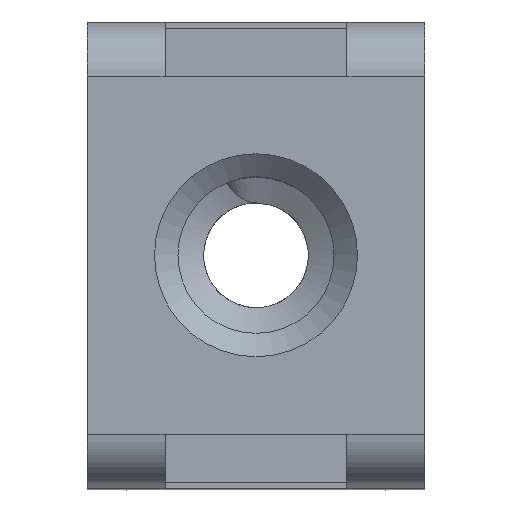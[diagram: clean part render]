
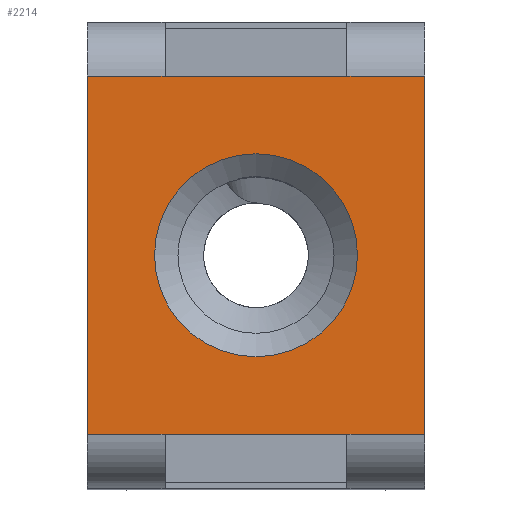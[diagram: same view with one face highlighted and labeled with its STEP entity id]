
A CAD part, top view. The second image highlights one B-rep face of the part: STEP entity #2214.
In plain terms, the highlighted planar face has unit normal (0, 0, 1).
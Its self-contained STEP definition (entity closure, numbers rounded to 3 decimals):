
#1822 = VERTEX_POINT('',#1823);
#1823 = CARTESIAN_POINT('',(3.251,3.453,11.989));
#1837 = VERTEX_POINT('',#1838);
#1838 = CARTESIAN_POINT('',(1.753,3.453,11.989));
#1850 = EDGE_CURVE('',#1822,#1837,#1851,.T.);
#1851 = B_SPLINE_CURVE_WITH_KNOTS('',1,(#1852,#1853),.UNSPECIFIED.,.F.,
  .F.,(2,2),(0.,1.),.PIECEWISE_BEZIER_KNOTS.);
#1852 = CARTESIAN_POINT('',(3.251,3.453,11.989));
#1853 = CARTESIAN_POINT('',(1.753,3.453,11.989));
#1922 = VERTEX_POINT('',#1923);
#1923 = CARTESIAN_POINT('',(-1.753,3.453,11.989));
#1937 = VERTEX_POINT('',#1938);
#1938 = CARTESIAN_POINT('',(-3.251,3.453,11.989));
#1950 = EDGE_CURVE('',#1922,#1937,#1951,.T.);
#1951 = B_SPLINE_CURVE_WITH_KNOTS('',1,(#1952,#1953),.UNSPECIFIED.,.F.,
  .F.,(2,2),(0.,1.),.PIECEWISE_BEZIER_KNOTS.);
#1952 = CARTESIAN_POINT('',(-1.753,3.453,11.989));
#1953 = CARTESIAN_POINT('',(-3.251,3.453,11.989));
#2214 = ADVANCED_FACE('',(#2215,#2261),#2272,.F.);
#2215 = FACE_BOUND('',#2216,.F.);
#2216 = EDGE_LOOP('',(#2217,#2225,#2226,#2232,#2233,#2241,#2248,#2256));
#2217 = ORIENTED_EDGE('',*,*,#2218,.F.);
#2218 = EDGE_CURVE('',#1937,#2219,#2221,.T.);
#2219 = VERTEX_POINT('',#2220);
#2220 = CARTESIAN_POINT('',(-3.251,-3.453,11.989));
#2221 = LINE('',#2222,#2223);
#2222 = CARTESIAN_POINT('',(-3.251,3.453,11.989));
#2223 = VECTOR('',#2224,1.);
#2224 = DIRECTION('',(0.,-1.,0.));
#2225 = ORIENTED_EDGE('',*,*,#1950,.F.);
#2226 = ORIENTED_EDGE('',*,*,#2227,.F.);
#2227 = EDGE_CURVE('',#1837,#1922,#2228,.T.);
#2228 = LINE('',#2229,#2230);
#2229 = CARTESIAN_POINT('',(3.251,3.453,11.989));
#2230 = VECTOR('',#2231,1.);
#2231 = DIRECTION('',(-1.,0.,0.));
#2232 = ORIENTED_EDGE('',*,*,#1850,.F.);
#2233 = ORIENTED_EDGE('',*,*,#2234,.F.);
#2234 = EDGE_CURVE('',#2235,#1822,#2237,.T.);
#2235 = VERTEX_POINT('',#2236);
#2236 = CARTESIAN_POINT('',(3.251,-3.453,11.989));
#2237 = LINE('',#2238,#2239);
#2238 = CARTESIAN_POINT('',(3.251,-3.453,11.989));
#2239 = VECTOR('',#2240,1.);
#2240 = DIRECTION('',(0.,1.,0.));
#2241 = ORIENTED_EDGE('',*,*,#2242,.T.);
#2242 = EDGE_CURVE('',#2235,#2243,#2245,.T.);
#2243 = VERTEX_POINT('',#2244);
#2244 = CARTESIAN_POINT('',(1.753,-3.453,11.989));
#2245 = B_SPLINE_CURVE_WITH_KNOTS('',1,(#2246,#2247),.UNSPECIFIED.,.F.,
  .F.,(2,2),(0.,1.),.PIECEWISE_BEZIER_KNOTS.);
#2246 = CARTESIAN_POINT('',(3.251,-3.453,11.989));
#2247 = CARTESIAN_POINT('',(1.753,-3.453,11.989));
#2248 = ORIENTED_EDGE('',*,*,#2249,.F.);
#2249 = EDGE_CURVE('',#2250,#2243,#2252,.T.);
#2250 = VERTEX_POINT('',#2251);
#2251 = CARTESIAN_POINT('',(-1.753,-3.453,11.989));
#2252 = LINE('',#2253,#2254);
#2253 = CARTESIAN_POINT('',(-3.251,-3.453,11.989));
#2254 = VECTOR('',#2255,1.);
#2255 = DIRECTION('',(1.,0.,0.));
#2256 = ORIENTED_EDGE('',*,*,#2257,.T.);
#2257 = EDGE_CURVE('',#2250,#2219,#2258,.T.);
#2258 = B_SPLINE_CURVE_WITH_KNOTS('',1,(#2259,#2260),.UNSPECIFIED.,.F.,
  .F.,(2,2),(0.,1.),.PIECEWISE_BEZIER_KNOTS.);
#2259 = CARTESIAN_POINT('',(-1.753,-3.453,11.989));
#2260 = CARTESIAN_POINT('',(-3.251,-3.453,11.989));
#2261 = FACE_BOUND('',#2262,.F.);
#2262 = EDGE_LOOP('',(#2263));
#2263 = ORIENTED_EDGE('',*,*,#2264,.F.);
#2264 = EDGE_CURVE('',#2265,#2265,#2267,.T.);
#2265 = VERTEX_POINT('',#2266);
#2266 = CARTESIAN_POINT('',(-1.956,0.,11.989));
#2267 = CIRCLE('',#2268,1.956);
#2268 = AXIS2_PLACEMENT_3D('',#2269,#2270,#2271);
#2269 = CARTESIAN_POINT('',(0.,-0.,11.989));
#2270 = DIRECTION('',(0.,0.,-1.));
#2271 = DIRECTION('',(-1.,0.,-0.));
#2272 = PLANE('',#2273);
#2273 = AXIS2_PLACEMENT_3D('',#2274,#2275,#2276);
#2274 = CARTESIAN_POINT('',(-3.251,3.453,11.989));
#2275 = DIRECTION('',(0.,0.,-1.));
#2276 = DIRECTION('',(0.685,-0.728,0.));
